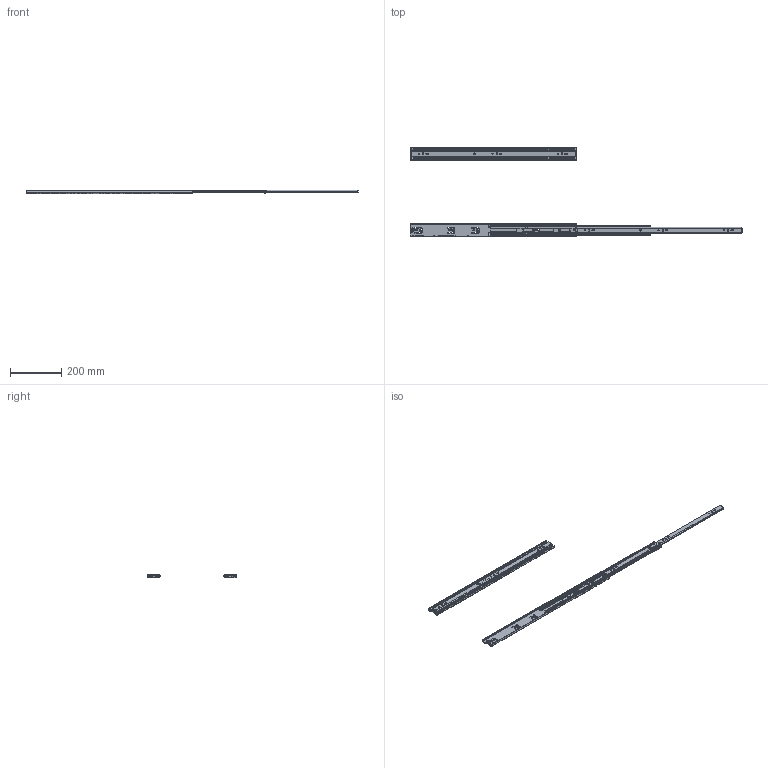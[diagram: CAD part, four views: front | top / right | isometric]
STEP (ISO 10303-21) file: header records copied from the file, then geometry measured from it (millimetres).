
FILE_DESCRIPTION(/* description */ (''),/* implementation_level */ '2;1');
FILE_NAME(/* name */ 'R:\Engineering\Distribution Website 3D\3932\DZ3932-0065.stp',/* time_stamp */ '2021-12-03T12:48:52+00:00',/* author */ ('kchown'),/* organization */ (''),/* preprocessor_version */ 'ST-DEVELOPER v18',/* originating_system */ 'Autodesk Inventor 2020',/* authorisation */ '');
FILE_SCHEMA (('AUTOMOTIVE_DESIGN { 1 0 10303 214 3 1 1 }'));
Products named in the file (35): Accuride_3932-26; Accuride_3932-26_1; Accuride_3932-26_1_1; Accuride_3932-26_2; Accuride_3932-26_3; Accuride_3932-26_4; Accuride_3932-26_5; Accuride_3932-26_6; Accuride_3932-26_7; Accuride_3932-26_8; Accuride_3932-26_9; Accuride_3932-26_10; Accuride_3932-26_11; Accuride_3932-26_12; Accuride_3932-26_13; Accuride_3932-26_14; Accuride_3932-26_15; Accuride_3932-26_16; Accuride_3932-26_17; Accuride_3932-26_18; Accuride_3932-26_19; Accuride_3932-26_20; Accuride_3932-26_21; Accuride_3932-26_22; Accuride_3932-26_23; Accuride_3932-26_24; Accuride_3932-26_25; Accuride_3932-26_26; Accuride_3932-26_27; Accuride_3932-26_28; Accuride_3932-26_29; Accuride_3932-26_30; Accuride_3932-26_31; Accuride_3932-26_32; Accuride_3932-26_33
Assembly tree (34 placements, depth 2):
  Accuride_3932-26
    Accuride_3932-26_1
    Accuride_3932-26_1_1
    Accuride_3932-26_2
    Accuride_3932-26_3
    Accuride_3932-26_4
    Accuride_3932-26_5
    Accuride_3932-26_6
    Accuride_3932-26_7
    Accuride_3932-26_8
    Accuride_3932-26_9
    Accuride_3932-26_10
    Accuride_3932-26_11
    Accuride_3932-26_12
    Accuride_3932-26_13
    Accuride_3932-26_14
    Accuride_3932-26_15
    Accuride_3932-26_16
    Accuride_3932-26_17
    Accuride_3932-26_18
    Accuride_3932-26_19
    Accuride_3932-26_20
    Accuride_3932-26_21
    Accuride_3932-26_22
    Accuride_3932-26_23
    Accuride_3932-26_24
    Accuride_3932-26_25
    Accuride_3932-26_26
    Accuride_3932-26_27
    Accuride_3932-26_28
    Accuride_3932-26_29
    Accuride_3932-26_30
    Accuride_3932-26_31
    Accuride_3932-26_32
    Accuride_3932-26_33
Bounding box: 1299.97 x 351.26 x 12.75 mm (x, y, z)
Volume: 387482.6 mm3; surface area: 530240.7 mm2
Topology: 34 solids, 34 shells, 2046 faces, 7092 edges, 4724 vertices
Faces by surface type: cylinder 1056, plane 874, bspline 112, sphere 4
Full cylindrical faces by diameter (mm): 4.2 x4, 4.4 x6, 4.5 x4, 5.6 x96, 5.7 x4, 6.2 x14, 8.5 x2
Entity records: 126269 total; most frequent: CARTESIAN_POINT 62847, ORIENTED_EDGE 14184, DIRECTION 12230, EDGE_CURVE 7092, VERTEX_POINT 4724, AXIS2_PLACEMENT_3D 4201, LINE 3828, VECTOR 3828
